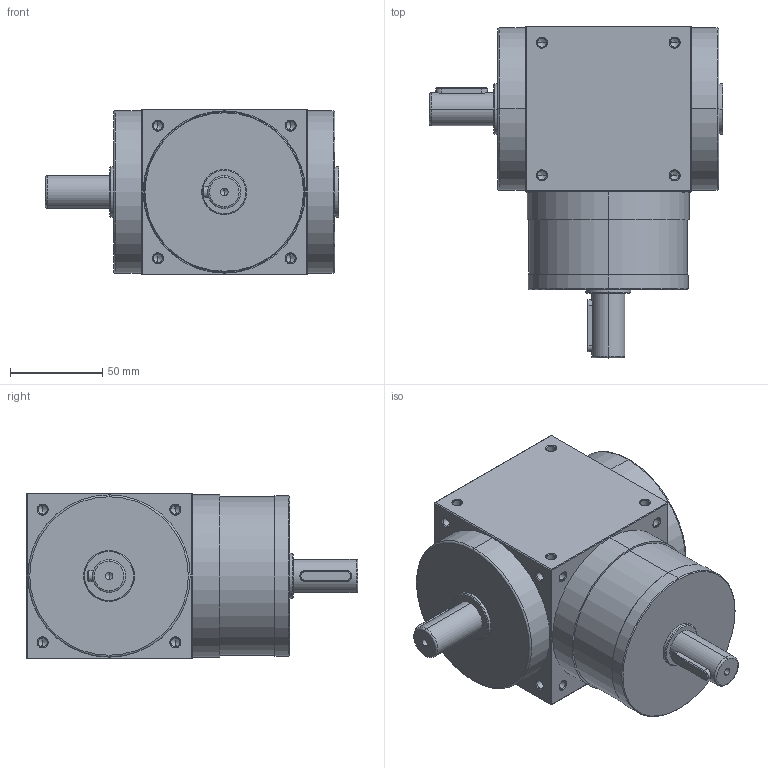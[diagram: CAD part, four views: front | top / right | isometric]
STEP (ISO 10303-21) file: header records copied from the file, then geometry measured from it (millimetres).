
FILE_DESCRIPTION (( 'STEP AP214' ), '1' );
FILE_NAME ('AT090-L1-L1.STEP', '2019-08-16T06:27:31', ( 'User' ), ( 'Far123' ), 'SwSTEP 2.0', 'SolidWorks 2015', '' );
FILE_SCHEMA (( 'AUTOMOTIVE_DESIGN' ));
Length unit declared in the file: millimetre
Products named in the file (1): AT090-L1-L1
Bounding box: 159 x 180 x 90 mm (x, y, z)
Volume: 1239860.4 mm3; surface area: 79919.9 mm2
Topology: 1 solids, 1 shells, 288 faces, 740 edges, 408 vertices
Faces by surface type: cylinder 124, cone 110, plane 46, torus 8
Entity records: 9492 total; most frequent: CARTESIAN_POINT 1989, ORIENTED_EDGE 1376, DIRECTION 1324, EDGE_CURVE 688, AXIS2_PLACEMENT_3D 511, VERTEX_POINT 408, EDGE_LOOP 326, LINE 302
